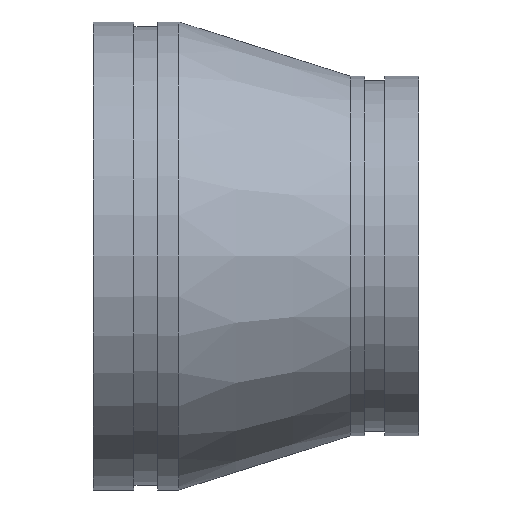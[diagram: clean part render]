
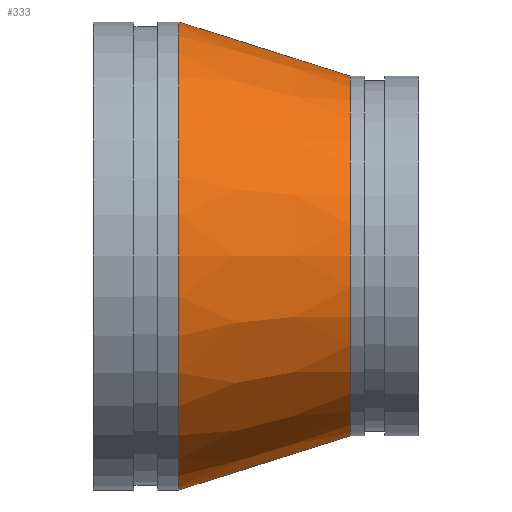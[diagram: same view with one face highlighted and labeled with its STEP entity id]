
A CAD part, front view. The second image highlights one B-rep face of the part: STEP entity #333.
In plain terms, the highlighted conical face has half-angle 17.56 degrees and reference radius 96.838 mm.
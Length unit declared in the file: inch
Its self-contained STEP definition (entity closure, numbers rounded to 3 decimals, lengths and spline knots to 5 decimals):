
#65=FACE_OUTER_BOUND('',#81,.T.);
#81=EDGE_LOOP('',(#229,#230,#231,#232,#233,#234));
#103=LINE('',#571,#113);
#113=VECTOR('',#438,3.8125);
#123=CIRCLE('',#370,3.3125);
#124=CIRCLE('',#371,3.3125);
#125=CIRCLE('',#372,4.3125);
#126=CIRCLE('',#373,4.3125);
#155=VERTEX_POINT('',#566);
#156=VERTEX_POINT('',#567);
#157=VERTEX_POINT('',#570);
#158=VERTEX_POINT('',#572);
#187=EDGE_CURVE('',#155,#156,#123,.T.);
#188=EDGE_CURVE('',#156,#155,#124,.T.);
#189=EDGE_CURVE('',#156,#157,#103,.T.);
#190=EDGE_CURVE('',#157,#158,#125,.T.);
#191=EDGE_CURVE('',#158,#157,#126,.T.);
#229=ORIENTED_EDGE('',*,*,#187,.F.);
#230=ORIENTED_EDGE('',*,*,#188,.F.);
#231=ORIENTED_EDGE('',*,*,#189,.T.);
#232=ORIENTED_EDGE('',*,*,#190,.T.);
#233=ORIENTED_EDGE('',*,*,#191,.T.);
#234=ORIENTED_EDGE('',*,*,#189,.F.);
#313=CONICAL_SURFACE('',#369,3.8125,0.306);
#333=ADVANCED_FACE('',(#65),#313,.T.);
#369=AXIS2_PLACEMENT_3D('',#565,#432,#433);
#370=AXIS2_PLACEMENT_3D('',#568,#434,#435);
#371=AXIS2_PLACEMENT_3D('',#569,#436,#437);
#372=AXIS2_PLACEMENT_3D('',#573,#439,#440);
#373=AXIS2_PLACEMENT_3D('',#574,#441,#442);
#432=DIRECTION('center_axis',(-1.,0.,0.));
#433=DIRECTION('ref_axis',(0.,1.,0.));
#434=DIRECTION('center_axis',(1.,0.,0.));
#435=DIRECTION('ref_axis',(0.,1.,0.));
#436=DIRECTION('center_axis',(1.,0.,0.));
#437=DIRECTION('ref_axis',(0.,1.,0.));
#438=DIRECTION('',(-0.953,-0.302,0.));
#439=DIRECTION('center_axis',(1.,0.,0.));
#440=DIRECTION('ref_axis',(0.,1.,0.));
#441=DIRECTION('center_axis',(1.,0.,0.));
#442=DIRECTION('ref_axis',(0.,1.,0.));
#565=CARTESIAN_POINT('Origin',(3.16,0.,0.));
#566=CARTESIAN_POINT('',(4.74,3.3125,0.));
#567=CARTESIAN_POINT('',(4.74,-3.3125,0.));
#568=CARTESIAN_POINT('Origin',(4.74,0.,0.));
#569=CARTESIAN_POINT('Origin',(4.74,0.,0.));
#570=CARTESIAN_POINT('',(1.58,-4.3125,0.));
#571=CARTESIAN_POINT('',(3.16,-3.8125,0.));
#572=CARTESIAN_POINT('',(1.58,4.3125,0.));
#573=CARTESIAN_POINT('Origin',(1.58,0.,0.));
#574=CARTESIAN_POINT('Origin',(1.58,0.,0.));
